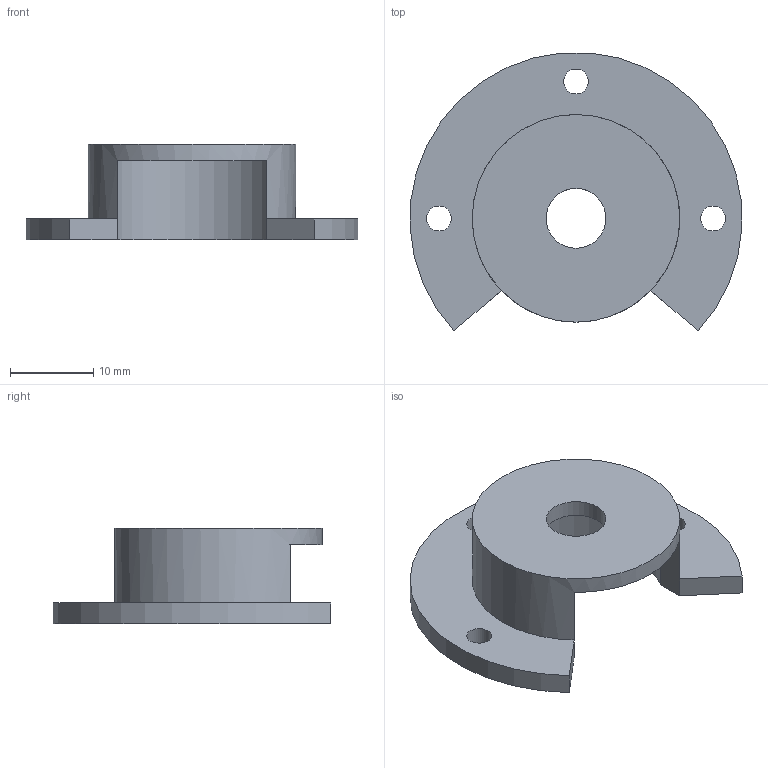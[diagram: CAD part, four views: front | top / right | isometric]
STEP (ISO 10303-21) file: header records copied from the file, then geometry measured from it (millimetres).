
FILE_DESCRIPTION(/* description */ (''),/* implementation_level */ '2;1');
FILE_NAME(/* name */ 'Potentiometer_Cover.step',/* time_stamp */ '2026-01-10T17:45:29+05:30',/* author */ (''),/* organization */ (''),/* preprocessor_version */ 'ST-DEVELOPER v20.1',/* originating_system */ 'Autodesk Translation Framework v14.21.0.0',/* authorisation */ '');
FILE_SCHEMA (('AUTOMOTIVE_DESIGN { 1 0 10303 214 3 1 1 }'));
Length unit declared in the file: millimetre
Products named in the file (1): Base Plate
Bounding box: 39.93 x 33.47 x 11.5 mm (x, y, z)
Volume: 3242.1 mm3; surface area: 3425.1 mm2
Topology: 1 solids, 1 shells, 15 faces, 37 edges, 24 vertices
Faces by surface type: plane 8, cylinder 7
Full cylindrical faces by diameter (mm): 3 x3, 7.2 x1, 25 x1
Entity records: 507 total; most frequent: DIRECTION 85, CARTESIAN_POINT 77, ORIENTED_EDGE 74, EDGE_CURVE 37, AXIS2_PLACEMENT_3D 32, VERTEX_POINT 24, EDGE_LOOP 23, LINE 21
